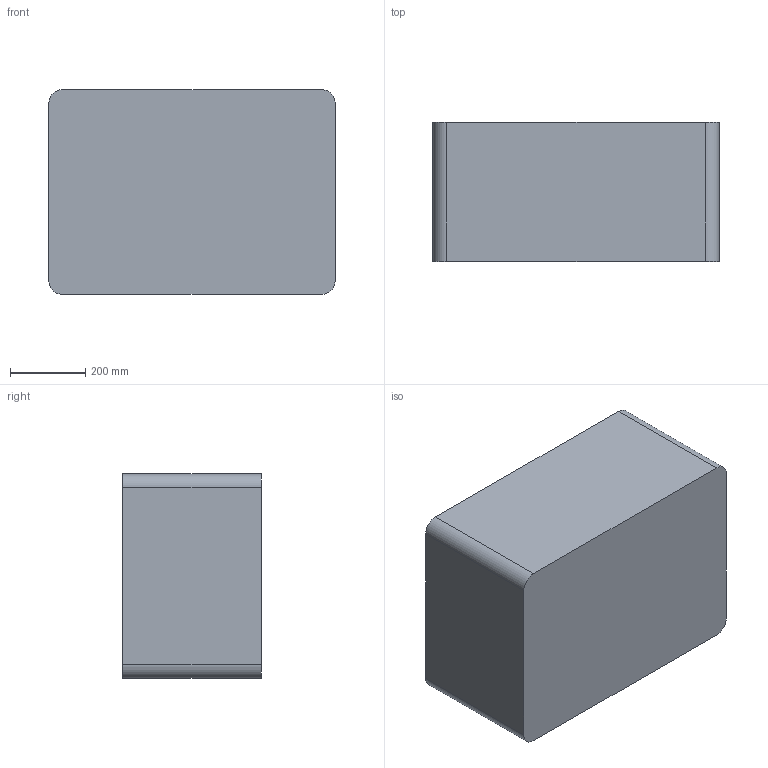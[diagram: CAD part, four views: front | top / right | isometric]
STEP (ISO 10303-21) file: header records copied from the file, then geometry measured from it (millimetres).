
FILE_DESCRIPTION (( 'STEP AP214' ), '1' );
FILE_NAME ('1660 Peli Case Bottom.STEP', '2016-02-16T01:29:18', ( '' ), ( '' ), 'SwSTEP 2.0', 'SolidWorks 2014', '' );
FILE_SCHEMA (( 'AUTOMOTIVE_DESIGN' ));
Length unit declared in the file: inch
Products named in the file (1): 1660 Peli Case Bottom
Bounding box: 759.62 x 368.3 x 542.89 mm (x, y, z)
Volume: 25171757 mm3; surface area: 4288187.9 mm2
Topology: 2 solids, 2 shells, 1383 faces, 3535 edges, 2138 vertices
Faces by surface type: cylinder 529, bspline 497, plane 312, cone 45
Entity records: 61962 total; most frequent: CARTESIAN_POINT 33312, ORIENTED_EDGE 7010, DIRECTION 4706, EDGE_CURVE 3505, VERTEX_POINT 2138, AXIS2_PLACEMENT_3D 1674, EDGE_LOOP 1397, FACE_OUTER_BOUND 1383
